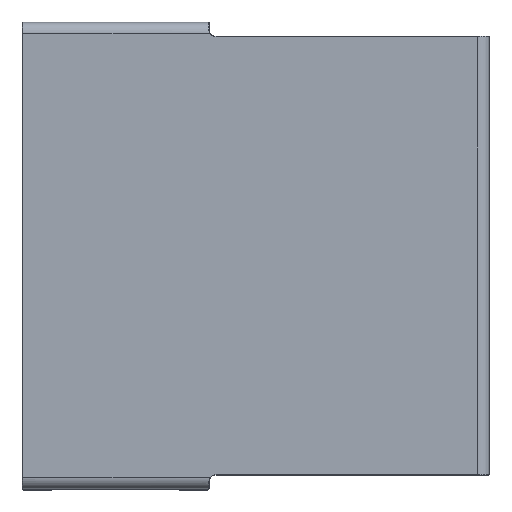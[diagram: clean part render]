
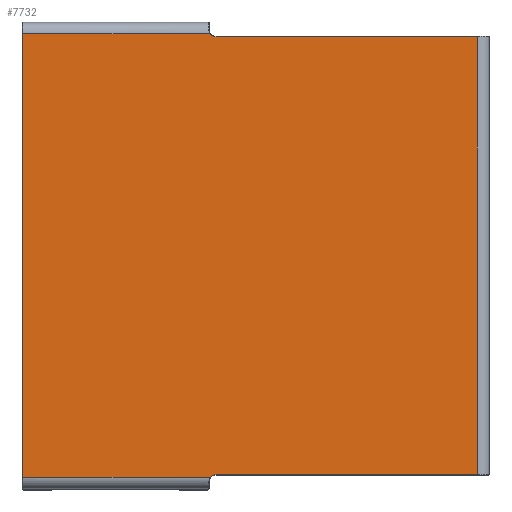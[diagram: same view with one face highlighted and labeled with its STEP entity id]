
A CAD part, top view. The second image highlights one B-rep face of the part: STEP entity #7732.
In plain terms, the highlighted planar face has unit normal (0, 0, 1).
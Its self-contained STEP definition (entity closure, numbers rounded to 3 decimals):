
#6020=CARTESIAN_POINT('',(-266.333,474.392,12.));
#6021=VERTEX_POINT('',#6020);
#6022=CARTESIAN_POINT('',(-254.355,469.,12.));
#6023=VERTEX_POINT('',#6022);
#6024=CARTESIAN_POINT('',(-254.355,485.,12.));
#6025=DIRECTION('',(0.0,0.0,1.0));
#6026=DIRECTION('',(-0.707,-0.707,0.0));
#6027=AXIS2_PLACEMENT_3D('',#6024,#6025,#6026);
#6028=CIRCLE('',#6027,16.);
#6029=EDGE_CURVE('',#6021,#6023,#6028,.T.);
#6065=CARTESIAN_POINT('',(305.641,469.,12.));
#6066=VERTEX_POINT('',#6065);
#6082=CARTESIAN_POINT('',(-254.355,469.,12.));
#6083=DIRECTION('',(1.0,0.0,0.0));
#6084=VECTOR('',#6083,559.996);
#6085=LINE('',#6082,#6084);
#6086=EDGE_CURVE('',#6023,#6066,#6085,.T.);
#6287=CARTESIAN_POINT('',(305.641,-469.,12.));
#6288=VERTEX_POINT('',#6287);
#6319=CARTESIAN_POINT('',(-254.355,-469.,12.));
#6320=VERTEX_POINT('',#6319);
#6336=CARTESIAN_POINT('',(305.641,-469.,12.));
#6337=DIRECTION('',(-1.0,0.0,0.0));
#6338=VECTOR('',#6337,559.996);
#6339=LINE('',#6336,#6338);
#6340=EDGE_CURVE('',#6288,#6320,#6339,.T.);
#6360=CARTESIAN_POINT('',(-266.333,-474.392,12.));
#6361=VERTEX_POINT('',#6360);
#6362=CARTESIAN_POINT('',(-254.355,-485.0,12.));
#6363=DIRECTION('',(0.0,0.0,1.0));
#6364=DIRECTION('',(-0.707,0.707,0.0));
#6365=AXIS2_PLACEMENT_3D('',#6362,#6363,#6364);
#6366=CIRCLE('',#6365,16.);
#6367=EDGE_CURVE('',#6320,#6361,#6366,.T.);
#6614=CARTESIAN_POINT('',(-266.719,475.001,12.));
#6615=VERTEX_POINT('',#6614);
#6802=CARTESIAN_POINT('',(-266.719,475.001,12.));
#6803=CARTESIAN_POINT('',(-266.69,474.953,12.));
#6804=CARTESIAN_POINT('',(-266.661,474.906,12.));
#6805=CARTESIAN_POINT('',(-266.536,474.705,12.));
#6806=CARTESIAN_POINT('',(-266.449,474.569,12.));
#6807=CARTESIAN_POINT('',(-266.361,474.434,12.));
#6808=CARTESIAN_POINT('',(-266.347,474.413,12.));
#6809=CARTESIAN_POINT('',(-266.333,474.392,12.));
#6810=B_SPLINE_CURVE_WITH_KNOTS('',3,(#6802,#6803,#6804,#6805,#6806,#6807,#6808,#6809),.UNSPECIFIED.,.F.,.U.,(4,2,2,4),(-0.051,-0.039,0.0,0.008),.UNSPECIFIED.);
#6811=EDGE_CURVE('',#6615,#6021,#6810,.T.);
#6977=CARTESIAN_POINT('',(-668.355,475.001,12.));
#6978=VERTEX_POINT('',#6977);
#7004=CARTESIAN_POINT('',(-668.355,-475.001,12.));
#7005=VERTEX_POINT('',#7004);
#7012=CARTESIAN_POINT('',(-668.355,-475.001,12.));
#7013=DIRECTION('',(0.0,1.0,0.0));
#7014=VECTOR('',#7013,950.002);
#7015=LINE('',#7012,#7014);
#7016=EDGE_CURVE('',#7005,#6978,#7015,.T.);
#7438=CARTESIAN_POINT('',(-266.719,-475.001,12.));
#7439=VERTEX_POINT('',#7438);
#7609=CARTESIAN_POINT('',(-266.333,-474.392,12.));
#7610=CARTESIAN_POINT('',(-266.347,-474.413,12.));
#7611=CARTESIAN_POINT('',(-266.361,-474.434,12.));
#7612=CARTESIAN_POINT('',(-266.449,-474.57,12.));
#7613=CARTESIAN_POINT('',(-266.536,-474.705,12.));
#7614=CARTESIAN_POINT('',(-266.661,-474.906,12.));
#7615=CARTESIAN_POINT('',(-266.69,-474.953,12.));
#7616=CARTESIAN_POINT('',(-266.719,-475.001,12.));
#7617=B_SPLINE_CURVE_WITH_KNOTS('',3,(#7609,#7610,#7611,#7612,#7613,#7614,#7615,#7616),.UNSPECIFIED.,.F.,.U.,(4,2,2,4),(-1.554,-1.537,-1.449,-1.424),.UNSPECIFIED.);
#7618=EDGE_CURVE('',#6361,#7439,#7617,.T.);
#7677=CARTESIAN_POINT('',(-668.355,-475.001,12.));
#7678=DIRECTION('',(1.0,0.0,0.0));
#7679=VECTOR('',#7678,401.636);
#7680=LINE('',#7677,#7679);
#7681=EDGE_CURVE('',#7005,#7439,#7680,.T.);
#7701=CARTESIAN_POINT('',(305.641,-469.,12.));
#7702=DIRECTION('',(0.0,1.0,0.0));
#7703=VECTOR('',#7702,938.);
#7704=LINE('',#7701,#7703);
#7705=EDGE_CURVE('',#6288,#6066,#7704,.T.);
#7710=CARTESIAN_POINT('',(-114.755,0.,12.));
#7711=DIRECTION('',(0.0,0.0,1.0));
#7712=DIRECTION('',(1.0,0.0,0.0));
#7713=AXIS2_PLACEMENT_3D('',#7710,#7711,#7712);
#7714=PLANE('',#7713);
#7715=ORIENTED_EDGE('',*,*,#7618,.F.);
#7716=ORIENTED_EDGE('',*,*,#6367,.F.);
#7717=ORIENTED_EDGE('',*,*,#6340,.F.);
#7718=ORIENTED_EDGE('',*,*,#7705,.T.);
#7719=ORIENTED_EDGE('',*,*,#6086,.F.);
#7720=ORIENTED_EDGE('',*,*,#6029,.F.);
#7721=ORIENTED_EDGE('',*,*,#6811,.F.);
#7722=CARTESIAN_POINT('',(-266.719,475.001,12.));
#7723=DIRECTION('',(-1.0,0.0,0.0));
#7724=VECTOR('',#7723,401.636);
#7725=LINE('',#7722,#7724);
#7726=EDGE_CURVE('',#6615,#6978,#7725,.T.);
#7727=ORIENTED_EDGE('',*,*,#7726,.T.);
#7728=ORIENTED_EDGE('',*,*,#7016,.F.);
#7729=ORIENTED_EDGE('',*,*,#7681,.T.);
#7730=EDGE_LOOP('',(#7715,#7716,#7717,#7718,#7719,#7720,#7721,#7727,#7728,#7729));
#7731=FACE_OUTER_BOUND('',#7730,.T.);
#7732=ADVANCED_FACE('',(#7731),#7714,.T.);
